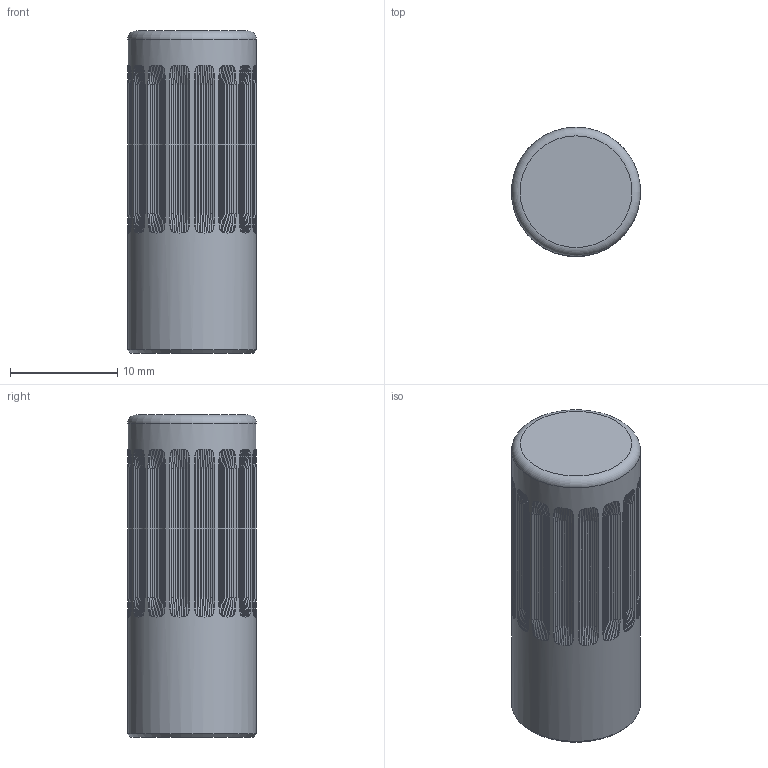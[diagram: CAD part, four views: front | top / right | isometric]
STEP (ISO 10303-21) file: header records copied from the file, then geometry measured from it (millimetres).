
FILE_DESCRIPTION(('Open CASCADE Model'),'2;1');
FILE_NAME('RL-PIN-knob-12','2026-10-19T21:24:13',('Author'),( 'Open CASCADE'),'Open CASCADE STEP processor 8.0','build123d', 'Unknown');
FILE_SCHEMA(('AUTOMOTIVE_DESIGN { 1 0 10303 214 1 1 1 1 }'));
Length unit declared in the file: millimetre
Products named in the file (2): RL-PIN-knob-12; brass_RL-PIN12__k
Assembly tree (1 placements, depth 2):
  RL-PIN-knob-12
    brass_RL-PIN12__k
Bounding box: 12 x 12 x 30 mm (x, y, z)
Volume: 3136.7 mm3; surface area: 1503.3 mm2
Topology: 1 solids, 1 shells, 585 faces, 1341 edges, 776 vertices
Faces by surface type: bspline 384, plane 196, cylinder 3, cone 1, torus 1
Full cylindrical faces by diameter (mm): 3.3 x1, 5.1 x1, 12 x1
Entity records: 40121 total; most frequent: CARTESIAN_POINT 17982, ORIENTED_EDGE 2682, PCURVE 2682, DEFINITIONAL_REPRESENTATION 2682, B_SPLINE_CURVE_WITH_KNOTS 2228, DIRECTION 2210, LINE 1780, VECTOR 1780
